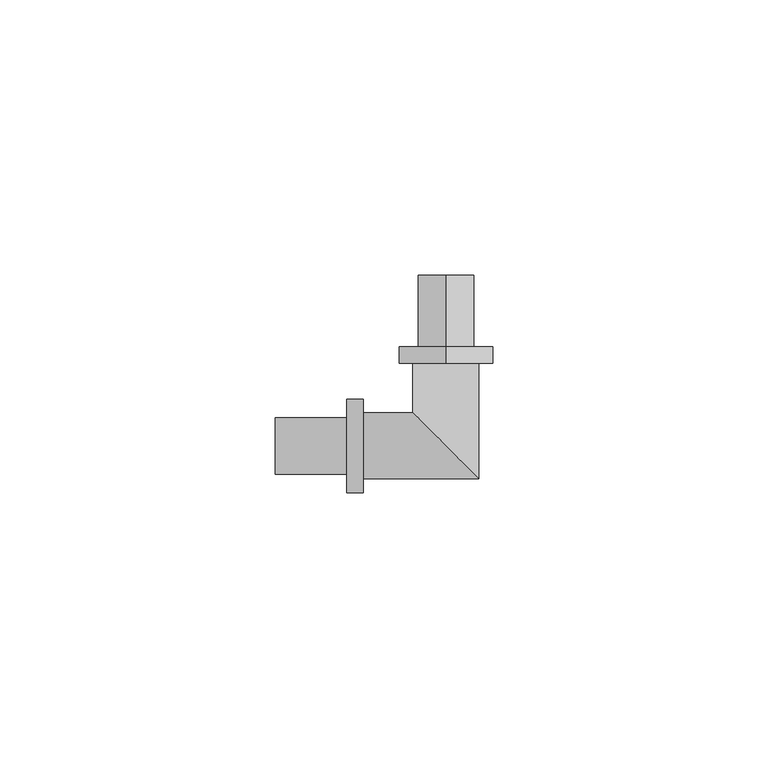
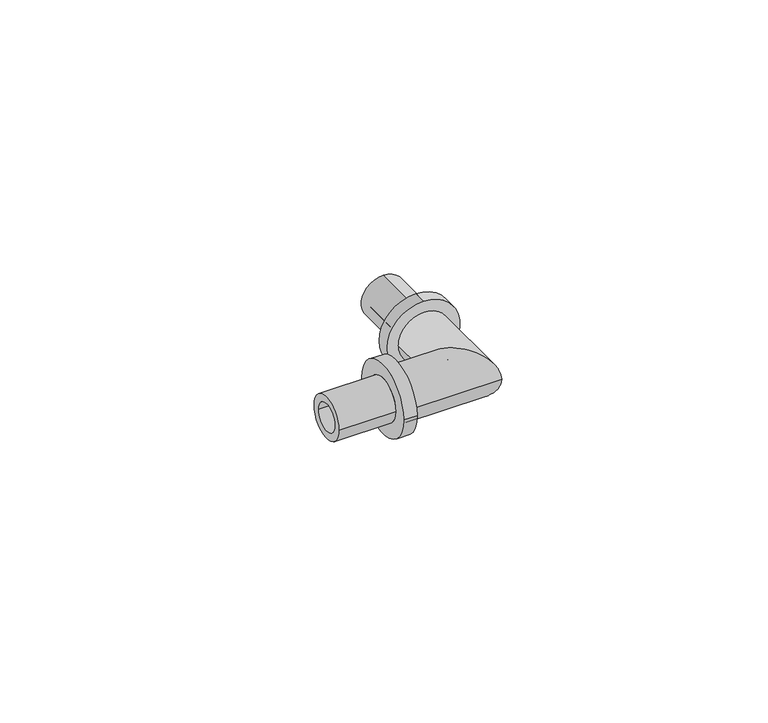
"""IFC4 building model written with IfcOpenShell, lengths in millimetres: pipe fitting geometry, RAUTITAN_Corner_LX : RTI LX C NL."""

from ifc_helpers import new_model, si_unit, frame, origin, place, context, project, spatial, polyline, circle_curve, ellipse_curve, source, transform, mapped, element, save
from ifc_brep_helpers import plane_surface, cylinder_surface, revolved_surface, advanced_brep


def pipe_fitting_893392b9(model_context):
    return source(origin(), model_context, "Body", "AdvancedBrep", [
        advanced_brep(
        [(0.0, 18.0, 8.5), (0.0, 18.0, -8.5), (0.0, 15.0, -8.5), (0.0, 15.0, 8.5), (0.0, 31.0, 5.1), (0.0, 31.0, -5.1), (0.0, 18.0, -5.1), (0.0, 18.0, 5.1), (0.0, 15.0, 3.3), (0.0, 15.0, -3.3), (0.0, 31.0, -3.3), (0.0, 31.0, 3.3)],
        [
            (0, 1, circle_curve(frame((0.0, 18.0, 0.0), z_axis=(0.0, -1.0, 0.0), x_axis=(0.0, 0.0, -1.0)), 8.5)),
            (1, 2),
            (2, 3, circle_curve(frame((0.0, 15.0, 0.0), z_axis=(0.0, 1.0, 0.0), x_axis=(0.0, 0.0, -1.0)), 8.5)),
            (3, 0),
            (4, 5, circle_curve(frame((0.0, 31.0, 0.0), z_axis=(0.0, -1.0, 0.0), x_axis=(0.0, 0.0, -1.0)), 5.1)),
            (5, 6),
            (6, 7, circle_curve(frame((0.0, 18.0, 0.0), z_axis=(0.0, 1.0, 0.0), x_axis=(0.0, 0.0, -1.0)), 5.1)),
            (7, 4),
            (8, 9, circle_curve(frame((0.0, 15.0, 0.0), z_axis=(0.0, -1.0, 0.0), x_axis=(0.0, 0.0, -1.0)), 3.3)),
            (9, 10),
            (10, 11, circle_curve(frame((0.0, 31.0, 0.0), z_axis=(0.0, 1.0, 0.0), x_axis=(0.0, 0.0, -1.0)), 3.3)),
            (11, 8),
            (1, 0, circle_curve(frame((0.0, 18.0, 0.0), z_axis=(0.0, -1.0, 0.0), x_axis=(0.0, 0.0, 1.0)), 8.5)),
            (3, 2, circle_curve(frame((0.0, 15.0, 0.0), z_axis=(0.0, 1.0, 0.0), x_axis=(0.0, 0.0, 1.0)), 8.5)),
            (6, 7, circle_curve(frame((0.0, 18.0, 0.0), z_axis=(0.0, -1.0, 0.0), x_axis=(0.0, 0.0, 1.0)), 5.1)),
            (5, 4, circle_curve(frame((0.0, 31.0, 0.0), z_axis=(0.0, -1.0, 0.0), x_axis=(0.0, 0.0, 1.0)), 5.1)),
            (10, 11, circle_curve(frame((0.0, 31.0, 0.0), z_axis=(0.0, -1.0, 0.0), x_axis=(0.0, 0.0, 1.0)), 3.3)),
            (9, 8, circle_curve(frame((0.0, 15.0, 0.0), z_axis=(0.0, -1.0, 0.0), x_axis=(0.0, 0.0, 1.0)), 3.3)),
        ],
        [
            cylinder_surface(frame((0.0, 15.0, 0.0), z_axis=(0.0, 1.0, 0.0), x_axis=(0.0, 0.0, -1.0)), 8.5),
            cylinder_surface(frame((0.0, 15.0, 0.0), z_axis=(0.0, 1.0, 0.0), x_axis=(0.0, 0.0, -1.0)), 5.1),
            revolved_surface(polyline([(0.0, 31.0, -3.3), (0.0, 15.0, -3.3)]), (0.0, 15.0, 0.0), (0.0, 1.0, 0.0)),
            cylinder_surface(frame((0.0, 15.0, 0.0), z_axis=(0.0, 1.0, 0.0), x_axis=(0.0, 0.0, 1.0)), 8.5),
            plane_surface(frame((0.0, 18.0, 0.0), z_axis=(0.0, 1.0, 0.0), x_axis=(0.0, 0.0, 1.0))),
            cylinder_surface(frame((0.0, 15.0, 0.0), z_axis=(0.0, 1.0, 0.0), x_axis=(0.0, 0.0, 1.0)), 5.1),
            plane_surface(frame((0.0, 31.0, 0.0), z_axis=(0.0, 1.0, 0.0), x_axis=(0.0, 0.0, 1.0))),
            revolved_surface(polyline([(0.0, 31.0, 3.3), (0.0, 15.0, 3.3)]), (0.0, 15.0, 0.0), (0.0, 1.0, 0.0)),
            plane_surface(frame((0.0, 15.0, 0.0), z_axis=(0.0, -1.0, 0.0), x_axis=(0.0, 0.0, 1.0))),
        ],
        [
            (0, [[1, 2, 3, 4]]),
            (1, [[5, 6, 7, 8]]),
            (2, [[9, 10, 11, 12]]),
            (3, [[13, -4, 14, -2]]),
            (4, [[-13, -1], [15, -7]]),
            (5, [[16, -8, -15, -6]]),
            (6, [[-16, -5], [17, -11]]),
            (7, [[18, -12, -17, -10]]),
            (8, [[-14, -3], [-18, -9]]),
        ],
    ),
        advanced_brep(
        [(-18.0, -8.5, 0.0), (-18.0, 8.5, 0.0), (-15.0, 8.5, 0.0), (-15.0, -8.5, 0.0), (-31.0, -5.1, 0.0), (-31.0, 5.1, 0.0), (-18.0, 5.1, 0.0), (-18.0, -5.1, 0.0), (-15.0, -3.3, 0.0), (-15.0, 3.3, 0.0), (-31.0, 3.3, 0.0), (-31.0, -3.3, 0.0)],
        [
            (0, 1, circle_curve(frame((-18.0, 0.0, 0.0), z_axis=(1.0, 0.0, 0.0), x_axis=(0.0, 1.0, 0.0)), 8.5)),
            (1, 2),
            (2, 3, circle_curve(frame((-15.0, 0.0, 0.0), z_axis=(-1.0, 0.0, 0.0), x_axis=(0.0, 1.0, 0.0)), 8.5)),
            (3, 0),
            (4, 5, circle_curve(frame((-31.0, 0.0, 0.0), z_axis=(1.0, 0.0, 0.0), x_axis=(0.0, 1.0, 0.0)), 5.1)),
            (5, 6),
            (6, 7, circle_curve(frame((-18.0, 0.0, 0.0), z_axis=(-1.0, 0.0, 0.0), x_axis=(0.0, 1.0, 0.0)), 5.1)),
            (7, 4),
            (8, 9, circle_curve(frame((-15.0, 0.0, 0.0), z_axis=(1.0, 0.0, 0.0), x_axis=(0.0, 1.0, 0.0)), 3.3)),
            (9, 10),
            (10, 11, circle_curve(frame((-31.0, 0.0, 0.0), z_axis=(-1.0, 0.0, 0.0), x_axis=(0.0, 1.0, 0.0)), 3.3)),
            (11, 8),
            (1, 0, circle_curve(frame((-18.0, 0.0, 0.0), z_axis=(1.0, 0.0, 0.0), x_axis=(0.0, -1.0, 0.0)), 8.5)),
            (3, 2, circle_curve(frame((-15.0, 0.0, 0.0), z_axis=(-1.0, 0.0, 0.0), x_axis=(0.0, -1.0, 0.0)), 8.5)),
            (6, 7, circle_curve(frame((-18.0, 0.0, 0.0), z_axis=(1.0, 0.0, 0.0), x_axis=(0.0, -1.0, 0.0)), 5.1)),
            (5, 4, circle_curve(frame((-31.0, 0.0, 0.0), z_axis=(1.0, 0.0, 0.0), x_axis=(0.0, -1.0, 0.0)), 5.1)),
            (10, 11, circle_curve(frame((-31.0, 0.0, 0.0), z_axis=(1.0, 0.0, 0.0), x_axis=(0.0, -1.0, 0.0)), 3.3)),
            (9, 8, circle_curve(frame((-15.0, 0.0, 0.0), z_axis=(1.0, 0.0, 0.0), x_axis=(0.0, -1.0, 0.0)), 3.3)),
        ],
        [
            cylinder_surface(frame((-15.0, 0.0, 0.0), z_axis=(-1.0, 0.0, 0.0), x_axis=(0.0, 1.0, 0.0)), 8.5),
            cylinder_surface(frame((-15.0, 0.0, 0.0), z_axis=(-1.0, 0.0, 0.0), x_axis=(0.0, 1.0, 0.0)), 5.1),
            revolved_surface(polyline([(-31.0, 3.3, 0.0), (-15.0, 3.3, 0.0)]), (-15.0, 0.0, 0.0), (-1.0, 0.0, 0.0)),
            cylinder_surface(frame((-15.0, 0.0, 0.0), z_axis=(-1.0, 0.0, 0.0), x_axis=(0.0, -1.0, 0.0)), 8.5),
            plane_surface(frame((-18.0, 0.0, 0.0), z_axis=(-1.0, 0.0, 0.0), x_axis=(0.0, -1.0, 0.0))),
            cylinder_surface(frame((-15.0, 0.0, 0.0), z_axis=(-1.0, 0.0, 0.0), x_axis=(0.0, -1.0, 0.0)), 5.1),
            plane_surface(frame((-31.0, 0.0, 0.0), z_axis=(-1.0, 0.0, 0.0), x_axis=(0.0, -1.0, 0.0))),
            revolved_surface(polyline([(-31.0, -3.3, 0.0), (-15.0, -3.3, 0.0)]), (-15.0, 0.0, 0.0), (-1.0, 0.0, 0.0)),
            plane_surface(frame((-15.0, 0.0, 0.0), z_axis=(1.0, 0.0, 0.0), x_axis=(0.0, -1.0, 0.0))),
        ],
        [
            (0, [[1, 2, 3, 4]]),
            (1, [[5, 6, 7, 8]]),
            (2, [[9, 10, 11, 12]]),
            (3, [[13, -4, 14, -2]]),
            (4, [[-13, -1], [15, -7]]),
            (5, [[16, -8, -15, -6]]),
            (6, [[-16, -5], [17, -11]]),
            (7, [[18, -12, -17, -10]]),
            (8, [[-14, -3], [-18, -9]]),
        ],
    ),
        advanced_brep(
        [(-15.0, -6.0, 0.0), (-15.0, 6.0, 0.0), (-15.0, -3.3, 0.0), (-15.0, 3.3, 0.0), (-3.3, 3.3, 0.0), (3.3, -3.3, 0.0), (6.0, 15.0, 0.0), (-6.0, 15.0, 0.0), (3.3, 15.0, 0.0), (-3.3, 15.0, 0.0), (6.0, -6.0, 0.0), (-6.0, 6.0, 0.0)],
        [
            (0, 1, circle_curve(frame((-15.0, 0.0, 0.0), z_axis=(-1.0, 0.0, 0.0), x_axis=(0.0, 1.0, 0.0)), 6.0)),
            (1, 0, circle_curve(frame((-15.0, 0.0, 0.0), z_axis=(-1.0, 0.0, 0.0), x_axis=(0.0, 1.0, 0.0)), 6.0)),
            (2, 3, circle_curve(frame((-15.0, 0.0, 0.0), z_axis=(1.0, 0.0, 0.0), x_axis=(0.0, 1.0, 0.0)), 3.3)),
            (3, 2, circle_curve(frame((-15.0, 0.0, 0.0), z_axis=(1.0, 0.0, 0.0), x_axis=(0.0, 1.0, 0.0)), 3.3)),
            (3, 4),
            (4, 5, ellipse_curve(frame((0.0, 0.0, 0.0), z_axis=(0.707106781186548, 0.7071067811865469, 0.0), x_axis=(0.7071067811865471, -0.7071067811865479, 0.0)), 4.6669048, 3.3)),
            (5, 2),
            (5, 4, ellipse_curve(frame((0.0, 0.0, 0.0), z_axis=(0.707106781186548, 0.7071067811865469, 0.0), x_axis=(0.7071067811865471, -0.7071067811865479, 0.0)), 4.6669048, 3.3)),
            (6, 7, circle_curve(frame((0.0, 15.0, 0.0), z_axis=(0.0, 1.0, 0.0), x_axis=(-1.0, 0.0, 0.0)), 6.0)),
            (7, 6, circle_curve(frame((0.0, 15.0, 0.0), z_axis=(0.0, 1.0, 0.0), x_axis=(-1.0, 0.0, 0.0)), 6.0)),
            (8, 9, circle_curve(frame((0.0, 15.0, 0.0), z_axis=(0.0, -1.0, 0.0), x_axis=(-1.0, 0.0, 0.0)), 3.3)),
            (9, 8, circle_curve(frame((0.0, 15.0, 0.0), z_axis=(0.0, -1.0, 0.0), x_axis=(-1.0, 0.0, 0.0)), 3.3)),
            (4, 9),
            (8, 5),
            (0, 10),
            (10, 11, ellipse_curve(frame((0.0, 0.0, 0.0), z_axis=(-0.707106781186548, -0.7071067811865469, 0.0), x_axis=(-0.7071067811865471, 0.7071067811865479, 0.0)), 8.4852814, 6.0)),
            (11, 1),
            (11, 10, ellipse_curve(frame((0.0, 0.0, 0.0), z_axis=(-0.707106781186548, -0.7071067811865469, 0.0), x_axis=(-0.7071067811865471, 0.7071067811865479, 0.0)), 8.4852814, 6.0)),
            (10, 6),
            (7, 11),
        ],
        [
            plane_surface(frame((-15.0, 0.0, 0.0), z_axis=(-1.0, 0.0, 0.0), x_axis=(0.0, 0.0, 1.0))),
            revolved_surface(polyline([(3.300000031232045, 3.3, 0.0), (-15.0, 3.3, 0.0)]), (-15.0, 0.0, 0.0), (1.0, 0.0, 0.0)),
            plane_surface(frame((0.0, 15.0, 0.0), z_axis=(0.0, 1.0, 0.0), x_axis=(0.0, 0.0, 1.0))),
            revolved_surface(polyline([(-3.3, 15.0, 0.0), (-3.3, -3.30000003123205, 0.0)]), (0.0, 0.0, 0.0), (0.0, 1.0, 0.0)),
            cylinder_surface(frame((-15.0, 0.0, 0.0), z_axis=(-1.0, 0.0, 0.0), x_axis=(0.0, 1.0, 0.0)), 6.0),
            cylinder_surface(frame((0.0, 0.0, 0.0), z_axis=(0.0, -1.0, 0.0), x_axis=(-1.0, 0.0, 0.0)), 6.0),
        ],
        [
            (0, [[1, 2], [3, 4]]),
            (1, [[-4, 5, 6, 7]]),
            (1, [[-3, -7, 8, -5]]),
            (2, [[9, 10], [11, 12]]),
            (3, [[-6, 13, -11, 14]]),
            (3, [[-8, -14, -12, -13]]),
            (4, [[-1, 15, 16, 17]]),
            (4, [[-2, -17, 18, -15]]),
            (5, [[-16, 19, -10, 20]]),
            (5, [[-18, -20, -9, -19]]),
        ],
    ),
    ])


if __name__ == "__main__":
    model = new_model("IFC4")
    model_context = context("Model", 3, world=origin())
    ifc_project = project(units=[si_unit("LENGTHUNIT", "METRE", prefix="MILLI")], contexts=[model_context])
    site = spatial("IfcSite", under=ifc_project)
    building = spatial("IfcBuilding", under=site)
    placement = place(None, origin())
    pipe_fitting_shape = pipe_fitting_893392b9(model_context)
    element("IfcPipeFitting", 1, ObjectType="RAUTITAN_Corner_LX : RTI LX C NL", at=placement, inside=building, context=model_context, shape_type="MappedRepresentation", body=[
        mapped(pipe_fitting_shape, transform((0.0, 0.0, 0.0), x_axis=(1.0, 0.0, 0.0), y_axis=(0.0, 1.0, 0.0), z_axis=(0.0, 0.0, 1.0))),
    ])
    save(model, "model.ifc")
